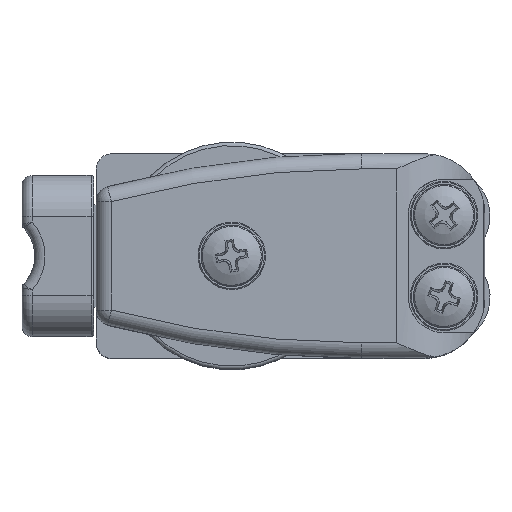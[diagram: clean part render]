
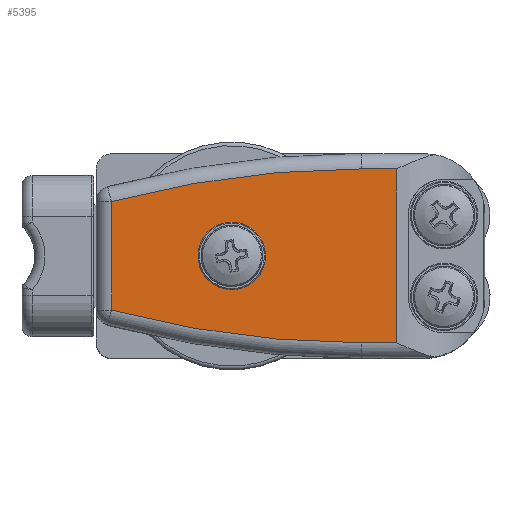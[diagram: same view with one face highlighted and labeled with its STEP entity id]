
A CAD part, top view. The second image highlights one B-rep face of the part: STEP entity #5395.
In plain terms, the highlighted planar face has unit normal (0, 0, 1).
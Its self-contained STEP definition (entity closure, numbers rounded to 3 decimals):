
#237=LINE('',#8747,#485);
#239=LINE('',#8766,#487);
#242=LINE('',#8789,#490);
#259=LINE('',#9062,#507);
#485=VECTOR('',#7062,10.);
#487=VECTOR('',#7078,10.);
#490=VECTOR('',#7099,10.);
#507=VECTOR('',#7160,10.);
#815=PLANE('',#6000);
#1051=FACE_BOUND('',#1859,.T.);
#1319=FACE_OUTER_BOUND('',#1858,.T.);
#1858=EDGE_LOOP('',(#4312,#4313,#4314,#4315,#4316,#4317));
#1859=EDGE_LOOP('',(#4318));
#2171=CIRCLE('',#5670,6.6);
#2278=CIRCLE('',#5937,190.);
#2285=CIRCLE('',#5947,190.);
#2536=VERTEX_POINT('',#8227);
#2671=VERTEX_POINT('',#8737);
#2672=VERTEX_POINT('',#8746);
#2675=VERTEX_POINT('',#8757);
#2678=VERTEX_POINT('',#8765);
#2680=VERTEX_POINT('',#8773);
#2685=VERTEX_POINT('',#8788);
#3059=EDGE_CURVE('',#2536,#2536,#2171,.T.);
#3216=EDGE_CURVE('',#2671,#2672,#237,.T.);
#3222=EDGE_CURVE('',#2672,#2675,#2278,.T.);
#3224=EDGE_CURVE('',#2675,#2678,#239,.T.);
#3231=EDGE_CURVE('',#2678,#2680,#2285,.T.);
#3234=EDGE_CURVE('',#2680,#2685,#242,.T.);
#3289=EDGE_CURVE('',#2671,#2685,#259,.T.);
#4312=ORIENTED_EDGE('',*,*,#3216,.F.);
#4313=ORIENTED_EDGE('',*,*,#3289,.T.);
#4314=ORIENTED_EDGE('',*,*,#3234,.F.);
#4315=ORIENTED_EDGE('',*,*,#3231,.F.);
#4316=ORIENTED_EDGE('',*,*,#3224,.F.);
#4317=ORIENTED_EDGE('',*,*,#3222,.F.);
#4318=ORIENTED_EDGE('',*,*,#3059,.T.);
#5395=ADVANCED_FACE('',(#1319,#1051),#815,.F.);
#5670=AXIS2_PLACEMENT_3D('',#8228,#6500,#6501);
#5937=AXIS2_PLACEMENT_3D('',#8761,#7072,#7073);
#5947=AXIS2_PLACEMENT_3D('',#8779,#7094,#7095);
#6000=AXIS2_PLACEMENT_3D('',#9152,#7244,#7245);
#6500=DIRECTION('center_axis',(0.,0.,
-1.));
#6501=DIRECTION('ref_axis',(0.954,0.298,0.));
#7062=DIRECTION('',(-1.,0.,0.));
#7072=DIRECTION('center_axis',(0.,0.,
-1.));
#7073=DIRECTION('ref_axis',(-0.13,-0.992,0.));
#7078=DIRECTION('',(0.,1.,0.));
#7094=DIRECTION('center_axis',(0.,0.,
-1.));
#7095=DIRECTION('ref_axis',(-0.13,0.992,0.));
#7099=DIRECTION('',(1.,0.,0.));
#7160=DIRECTION('',(0.,1.,0.));
#7244=DIRECTION('center_axis',(0.,0.,
-1.));
#7245=DIRECTION('ref_axis',(-1.,0.,0.));
#8227=CARTESIAN_POINT('',(-35.201,1.97,63.));
#8228=CARTESIAN_POINT('Origin',(-41.5,0.,
63.));
#8737=CARTESIAN_POINT('',(-9.253,-17.,63.));
#8746=CARTESIAN_POINT('',(-16.1,-17.,63.));
#8747=CARTESIAN_POINT('',(-17.05,-17.,63.));
#8757=CARTESIAN_POINT('',(-65.,-10.6,63.));
#8761=CARTESIAN_POINT('Origin',(-16.1,173.,63.));
#8765=CARTESIAN_POINT('',(-65.,10.6,63.));
#8766=CARTESIAN_POINT('',(-65.,0.,63.));
#8773=CARTESIAN_POINT('',(-16.1,17.,63.));
#8779=CARTESIAN_POINT('Origin',(-16.1,-173.,63.));
#8788=CARTESIAN_POINT('',(-9.253,17.,63.));
#8789=CARTESIAN_POINT('',(-11.,17.,63.));
#9062=CARTESIAN_POINT('',(-9.253,0.,63.));
#9152=CARTESIAN_POINT('Origin',(-18.,0.,63.));
